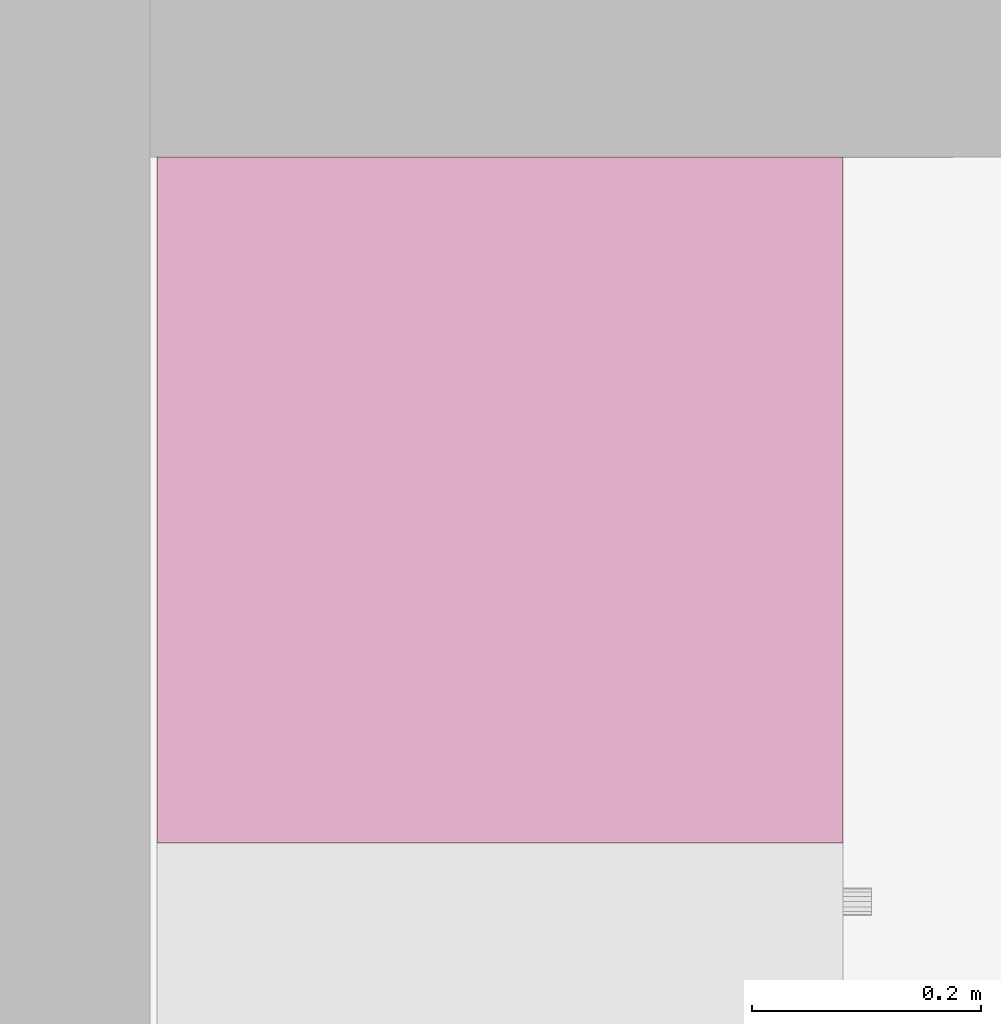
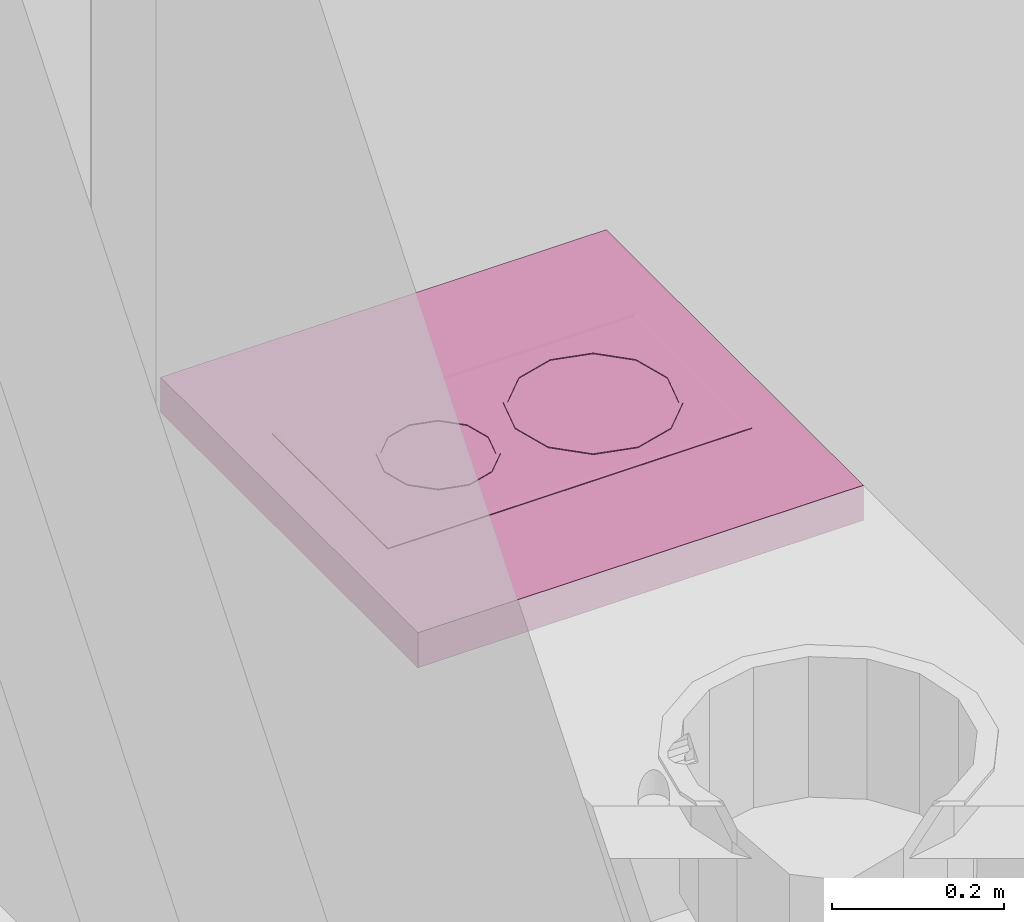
# One storey, part 159 of 172: 1 furnishing.
"""IFC2X3 building model written with IfcOpenShell, lengths in millimetres."""

from ifc_helpers import new_model, entity, si_unit, converted_unit, money_unit, direction, frame, origin_with_axes, place, context, subcontext, project, spatial, faceted_brep, source, transform, mapped, material, material_list, type_object, element, save


model = new_model("IFC2X3")

# Units and contexts
model_context = context("Model", 3, precision=1e-05, world=origin_with_axes(), true_north=direction((0.0, 1.0)))
body_context = subcontext(model_context, "Body", "Model", "MODEL_VIEW")
ifc_project = project(units=[si_unit("LENGTHUNIT", "METRE", prefix="MILLI"), si_unit("AREAUNIT", "SQUARE_METRE"), si_unit("VOLUMEUNIT", "CUBIC_METRE"), converted_unit("PLANEANGLEUNIT", "DEGREE", entity("IfcPlaneAngleMeasure", 0.0174532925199), si_unit("PLANEANGLEUNIT", "RADIAN"), dimensions=[0, 0, 0, 0, 0, 0, 0]), si_unit("SOLIDANGLEUNIT", "STERADIAN"), money_unit("USD"), converted_unit("TIMEUNIT", "Year", entity("IfcTimeMeasure", 31556926.0), si_unit("TIMEUNIT", "SECOND"), dimensions=[0, 0, 0, 0, 0, 0, 0]), si_unit("MASSUNIT", "GRAM"), si_unit("THERMODYNAMICTEMPERATUREUNIT", "DEGREE_CELSIUS"), si_unit("LUMINOUSINTENSITYUNIT", "LUMEN")], contexts=[model_context])

# Site, building, storey
site_placement = place(None, origin_with_axes())
site = spatial("IfcSite", under=ifc_project, at=site_placement, Name="Site", CompositionType="ELEMENT")
building_placement = place(site_placement, origin_with_axes())
building = spatial("IfcBuilding", under=site, at=building_placement, Name="Building", CompositionType="ELEMENT")
storey_placement = place(building_placement, frame((0.0, 0.0, 3200.0), z_axis=(0.0, 0.0, 1.0), x_axis=(1.0, 0.0, 0.0)))
storey = spatial("IfcBuildingStorey", under=building, at=storey_placement, Name="3KORRUS", CompositionType="ELEMENT", Elevation=3200.0)

# Furnishing
ifc_material = material(Name="Background")
ifc_material_list = material_list([ifc_material])
furnishing_element_type = type_object("IfcFurnishingElementType", Name="Built-in Cooktops 19")
shared_shape = source(origin_with_axes(), body_context, "Body", "Brep", [
    faceted_brep([(0.0, 0.0, 850.0), (0.0, 0.0, 900.0), (-600.0, 0.0, 900.0), (-600.0, 0.0, 850.0), (0.0, 600.0, 850.0), (0.0, 600.0, 900.0), (-600.0, 600.0, 900.0), (-600.0, 600.0, 850.0)], [[[0, 1, 2, 3]], [[4, 5, 1, 0]], [[1, 5, 6, 2]], [[3, 2, 6, 7]], [[0, 3, 7, 4]], [[7, 6, 5, 4]]]),
    faceted_brep([(-165.0, 55.0, 900.0), (-435.0, 55.0, 900.0), (-435.0, 545.0, 900.0), (-165.0, 545.0, 900.0), (-165.0, 55.0, 900.8), (-435.0, 55.0, 900.8), (-435.0, 545.0, 900.8), (-165.0, 545.0, 900.8), (-171.806, 61.806, 902.0), (-428.194, 61.806, 902.0), (-428.194, 538.194, 902.0), (-171.806, 538.194, 902.0)], [[[0, 1, 2, 3]], [[0, 4, 5, 1]], [[1, 5, 6, 2]], [[2, 6, 7, 3]], [[3, 7, 4, 0]], [[4, 8, 9, 5]], [[5, 9, 10, 6]], [[6, 10, 11, 7]], [[7, 11, 8, 4]], [[10, 9, 8, 11]]]),
    faceted_brep([(-195.0, 409.27, 902.0), (-195.0, 409.27, 903.0), (-209.067, 356.77, 903.0), (-209.067, 356.77, 902.0), (-209.067, 461.77, 902.0), (-209.067, 461.77, 903.0), (-247.5, 500.203, 903.0), (-300.0, 514.27, 903.0), (-352.5, 500.203, 903.0), (-390.933, 461.77, 903.0), (-405.0, 409.27, 903.0), (-390.933, 356.77, 903.0), (-352.5, 318.337, 903.0), (-300.0, 304.27, 903.0), (-247.5, 318.337, 903.0), (-200.0, 409.27, 903.0), (-213.397, 359.27, 903.0), (-250.0, 322.667, 903.0), (-300.0, 309.27, 903.0), (-350.0, 322.667, 903.0), (-386.603, 359.27, 903.0), (-400.0, 409.27, 903.0), (-386.603, 459.27, 903.0), (-350.0, 495.873, 903.0), (-300.0, 509.27, 903.0), (-250.0, 495.873, 903.0), (-213.397, 459.27, 903.0), (-247.5, 318.337, 902.0), (-300.0, 304.27, 902.0), (-352.5, 318.337, 902.0), (-390.933, 356.77, 902.0), (-405.0, 409.27, 902.0), (-390.933, 461.77, 902.0), (-352.5, 500.203, 902.0), (-300.0, 514.27, 902.0), (-247.5, 500.203, 902.0), (-200.0, 409.27, 902.0), (-213.397, 459.27, 902.0), (-250.0, 495.873, 902.0), (-300.0, 509.27, 902.0), (-350.0, 495.873, 902.0), (-386.603, 459.27, 902.0), (-400.0, 409.27, 902.0), (-386.603, 359.27, 902.0), (-350.0, 322.667, 902.0), (-300.0, 309.27, 902.0), (-250.0, 322.667, 902.0), (-213.397, 359.27, 902.0)], [[[0, 1, 2, 3]], [[4, 5, 1, 0]], [[1, 5, 6, 7, 8, 9, 10, 11, 12, 13, 14, 2], [15, 16, 17, 18, 19, 20, 21, 22, 23, 24, 25, 26]], [[3, 2, 14, 27]], [[0, 3, 27, 28, 29, 30, 31, 32, 33, 34, 35, 4], [36, 37, 38, 39, 40, 41, 42, 43, 44, 45, 46, 47]], [[35, 6, 5, 4]], [[34, 7, 6, 35]], [[33, 8, 7, 34]], [[32, 9, 8, 33]], [[31, 10, 9, 32]], [[30, 11, 10, 31]], [[29, 12, 11, 30]], [[28, 13, 12, 29]], [[27, 14, 13, 28]], [[47, 16, 15, 36]], [[46, 17, 16, 47]], [[45, 18, 17, 46]], [[44, 19, 18, 45]], [[43, 20, 19, 44]], [[42, 21, 20, 43]], [[41, 22, 21, 42]], [[40, 23, 22, 41]], [[39, 24, 23, 40]], [[38, 25, 24, 39]], [[37, 26, 25, 38]], [[36, 15, 26, 37]]]),
    faceted_brep([(-227.5, 200.53, 902.0), (-227.5, 200.53, 903.0), (-237.213, 164.28, 903.0), (-237.213, 164.28, 902.0), (-237.213, 236.78, 902.0), (-237.213, 236.78, 903.0), (-263.75, 263.317, 903.0), (-300.0, 273.03, 903.0), (-336.25, 263.317, 903.0), (-362.787, 236.78, 903.0), (-372.5, 200.53, 903.0), (-362.787, 164.28, 903.0), (-336.25, 137.743, 903.0), (-300.0, 128.03, 903.0), (-263.75, 137.743, 903.0), (-232.5, 200.53, 903.0), (-241.543, 166.78, 903.0), (-266.25, 142.073, 903.0), (-300.0, 133.03, 903.0), (-333.75, 142.073, 903.0), (-358.457, 166.78, 903.0), (-367.5, 200.53, 903.0), (-358.457, 234.28, 903.0), (-333.75, 258.987, 903.0), (-300.0, 268.03, 903.0), (-266.25, 258.987, 903.0), (-241.543, 234.28, 903.0), (-263.75, 137.743, 902.0), (-300.0, 128.03, 902.0), (-336.25, 137.743, 902.0), (-362.787, 164.28, 902.0), (-372.5, 200.53, 902.0), (-362.787, 236.78, 902.0), (-336.25, 263.317, 902.0), (-300.0, 273.03, 902.0), (-263.75, 263.317, 902.0), (-232.5, 200.53, 902.0), (-241.543, 234.28, 902.0), (-266.25, 258.987, 902.0), (-300.0, 268.03, 902.0), (-333.75, 258.987, 902.0), (-358.457, 234.28, 902.0), (-367.5, 200.53, 902.0), (-358.457, 166.78, 902.0), (-333.75, 142.073, 902.0), (-300.0, 133.03, 902.0), (-266.25, 142.073, 902.0), (-241.543, 166.78, 902.0)], [[[0, 1, 2, 3]], [[4, 5, 1, 0]], [[1, 5, 6, 7, 8, 9, 10, 11, 12, 13, 14, 2], [15, 16, 17, 18, 19, 20, 21, 22, 23, 24, 25, 26]], [[3, 2, 14, 27]], [[0, 3, 27, 28, 29, 30, 31, 32, 33, 34, 35, 4], [36, 37, 38, 39, 40, 41, 42, 43, 44, 45, 46, 47]], [[35, 6, 5, 4]], [[34, 7, 6, 35]], [[33, 8, 7, 34]], [[32, 9, 8, 33]], [[31, 10, 9, 32]], [[30, 11, 10, 31]], [[29, 12, 11, 30]], [[28, 13, 12, 29]], [[27, 14, 13, 28]], [[47, 16, 15, 36]], [[46, 17, 16, 47]], [[45, 18, 17, 46]], [[44, 19, 18, 45]], [[43, 20, 19, 44]], [[42, 21, 20, 43]], [[41, 22, 21, 42]], [[40, 23, 22, 41]], [[39, 24, 23, 40]], [[38, 25, 24, 39]], [[37, 26, 25, 38]], [[36, 15, 26, 37]]]),
])
furnishing_placement = place(storey_placement, frame((-35984.008308, -13789.2398994, 0.0), z_axis=(0.0, 0.0, 1.0), x_axis=(0.0, -1.0, 0.0)))
element("IfcFurnishingElement", 1, at=furnishing_placement, inside=storey, type_object=furnishing_element_type, material=ifc_material_list, Name="FU - 007", context=body_context, shape_type="MappedRepresentation", body=[
    mapped(shared_shape, transform((0.0, 0.0, 0.0))),
])

save(model, "model.ifc")
